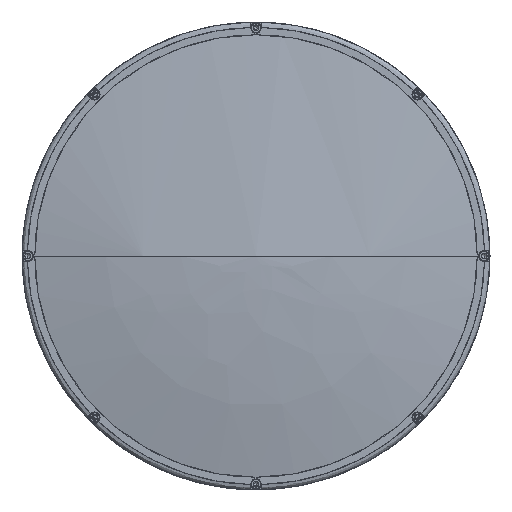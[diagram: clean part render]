
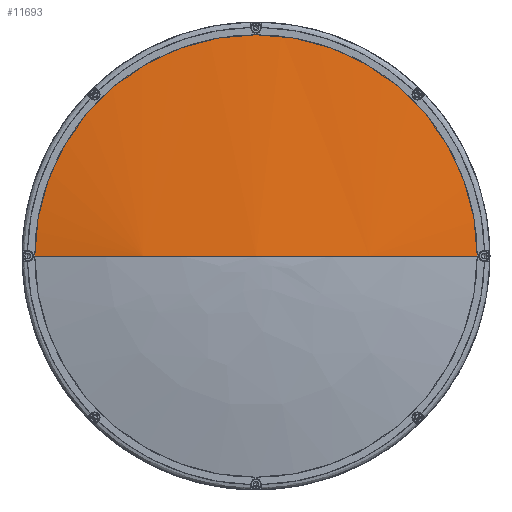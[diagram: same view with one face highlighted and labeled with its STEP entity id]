
A CAD part, left-side view. The second image highlights one B-rep face of the part: STEP entity #11693.
In plain terms, the highlighted face is a revolution surface.
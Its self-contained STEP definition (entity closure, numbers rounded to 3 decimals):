
#11693 = ADVANCED_FACE('',(#11694),#11712,.T.);
#11694 = FACE_BOUND('',#11695,.T.);
#11695 = EDGE_LOOP('',(#11696,#11726,#11745,#11764));
#11696 = ORIENTED_EDGE('',*,*,#11697,.F.);
#11697 = EDGE_CURVE('',#11698,#11700,#11702,.T.);
#11698 = VERTEX_POINT('',#11699);
#11699 = CARTESIAN_POINT('',(-560.373,0.,
    0.));
#11700 = VERTEX_POINT('',#11701);
#11701 = CARTESIAN_POINT('',(-547.362,-124.9,
    0.));
#11702 = SURFACE_CURVE('',#11703,(#11711),.PCURVE_S1.);
#11703 = ( BOUNDED_CURVE() B_SPLINE_CURVE(6,(#11704,#11705,#11706,#11707
    ,#11708,#11709,#11710),.UNSPECIFIED.,.F.,.F.) 
B_SPLINE_CURVE_WITH_KNOTS((7,7),(0.,1.),.PIECEWISE_BEZIER_KNOTS.) CURVE(
) GEOMETRIC_REPRESENTATION_ITEM() RATIONAL_B_SPLINE_CURVE((
    1.001,1.,1.,1.,
1.,1.,1.001)) REPRESENTATION_ITEM('') 
  );
#11704 = CARTESIAN_POINT('',(-560.373,0.,
    0.));
#11705 = CARTESIAN_POINT('',(-560.373,-20.974,
    0.));
#11706 = CARTESIAN_POINT('',(-559.502,-41.94,
    0.));
#11707 = CARTESIAN_POINT('',(-557.761,-62.856,
    0.));
#11708 = CARTESIAN_POINT('',(-555.154,-83.681,
    0.));
#11709 = CARTESIAN_POINT('',(-551.685,-104.376,
    0.));
#11710 = CARTESIAN_POINT('',(-547.362,-124.9,
    0.));
#11711 = PCURVE('',#11712,#11721);
#11712 = SURFACE_OF_REVOLUTION('',#11713,#11718);
#11713 = CIRCLE('',#11714,606.);
#11714 = AXIS2_PLACEMENT_3D('',#11715,#11716,#11717);
#11715 = CARTESIAN_POINT('',(45.627,0.,
    0.));
#11716 = DIRECTION('',(0.,0.,-1.));
#11717 = DIRECTION('',(1.,0.,0.));
#11718 = AXIS1_PLACEMENT('',#11719,#11720);
#11719 = CARTESIAN_POINT('',(45.627,0.,0.));
#11720 = DIRECTION('',(1.,0.,0.));
#11721 = DEFINITIONAL_REPRESENTATION('',(#11722),#11725);
#11722 = B_SPLINE_CURVE_WITH_KNOTS('',1,(#11723,#11724),.UNSPECIFIED.,
  .F.,.F.,(2,2),(0.,1.),.PIECEWISE_BEZIER_KNOTS.);
#11723 = CARTESIAN_POINT('',(6.283,3.142));
#11724 = CARTESIAN_POINT('',(6.283,2.934));
#11725 = ( GEOMETRIC_REPRESENTATION_CONTEXT(2) 
PARAMETRIC_REPRESENTATION_CONTEXT() REPRESENTATION_CONTEXT('',''
  ) );
#11726 = ORIENTED_EDGE('',*,*,#11727,.F.);
#11727 = EDGE_CURVE('',#11728,#11698,#11730,.T.);
#11728 = VERTEX_POINT('',#11729);
#11729 = CARTESIAN_POINT('',(-560.373,0.,
    0.));
#11730 = SURFACE_CURVE('',#11731,(#11739),.PCURVE_S1.);
#11731 = ( BOUNDED_CURVE() B_SPLINE_CURVE(6,(#11732,#11733,#11734,#11735
    ,#11736,#11737,#11738),.UNSPECIFIED.,.F.,.F.) 
B_SPLINE_CURVE_WITH_KNOTS((7,7),(0.,1.),.PIECEWISE_BEZIER_KNOTS.) CURVE(
) GEOMETRIC_REPRESENTATION_ITEM() RATIONAL_B_SPLINE_CURVE((
    1.133,1.036,0.992,0.976,
0.992,1.036,1.133)) REPRESENTATION_ITEM('') 
  );
#11732 = CARTESIAN_POINT('',(-560.373,0.,
    0.));
#11733 = CARTESIAN_POINT('',(-560.373,0.,
    0.));
#11734 = CARTESIAN_POINT('',(-560.373,0.,
    0.));
#11735 = CARTESIAN_POINT('',(-560.373,0.,
    0.));
#11736 = CARTESIAN_POINT('',(-560.373,0.,
    0.));
#11737 = CARTESIAN_POINT('',(-560.373,0.,
    0.));
#11738 = CARTESIAN_POINT('',(-560.373,0.,
    0.));
#11739 = PCURVE('',#11712,#11740);
#11740 = DEFINITIONAL_REPRESENTATION('',(#11741),#11744);
#11741 = B_SPLINE_CURVE_WITH_KNOTS('',1,(#11742,#11743),.UNSPECIFIED.,
  .F.,.F.,(2,2),(0.,1.),.PIECEWISE_BEZIER_KNOTS.);
#11742 = CARTESIAN_POINT('',(3.142,3.142));
#11743 = CARTESIAN_POINT('',(6.283,3.142));
#11744 = ( GEOMETRIC_REPRESENTATION_CONTEXT(2) 
PARAMETRIC_REPRESENTATION_CONTEXT() REPRESENTATION_CONTEXT('',''
  ) );
#11745 = ORIENTED_EDGE('',*,*,#11746,.F.);
#11746 = EDGE_CURVE('',#11747,#11728,#11749,.T.);
#11747 = VERTEX_POINT('',#11748);
#11748 = CARTESIAN_POINT('',(-547.362,124.9,
    0.));
#11749 = SURFACE_CURVE('',#11750,(#11758),.PCURVE_S1.);
#11750 = ( BOUNDED_CURVE() B_SPLINE_CURVE(6,(#11751,#11752,#11753,#11754
    ,#11755,#11756,#11757),.UNSPECIFIED.,.F.,.F.) 
B_SPLINE_CURVE_WITH_KNOTS((7,7),(0.,1.),.PIECEWISE_BEZIER_KNOTS.) CURVE(
) GEOMETRIC_REPRESENTATION_ITEM() RATIONAL_B_SPLINE_CURVE((
    1.001,1.,1.,1.,
1.,1.,1.001)) REPRESENTATION_ITEM('') 
  );
#11751 = CARTESIAN_POINT('',(-547.362,124.9,
    0.));
#11752 = CARTESIAN_POINT('',(-551.685,104.376,
    0.));
#11753 = CARTESIAN_POINT('',(-555.154,83.681,
    0.));
#11754 = CARTESIAN_POINT('',(-557.761,62.856,
    0.));
#11755 = CARTESIAN_POINT('',(-559.502,41.94,
    0.));
#11756 = CARTESIAN_POINT('',(-560.373,20.974,
    0.));
#11757 = CARTESIAN_POINT('',(-560.373,0.,
    0.));
#11758 = PCURVE('',#11712,#11759);
#11759 = DEFINITIONAL_REPRESENTATION('',(#11760),#11763);
#11760 = B_SPLINE_CURVE_WITH_KNOTS('',1,(#11761,#11762),.UNSPECIFIED.,
  .F.,.F.,(2,2),(0.,1.),.PIECEWISE_BEZIER_KNOTS.);
#11761 = CARTESIAN_POINT('',(3.142,2.934));
#11762 = CARTESIAN_POINT('',(3.142,3.142));
#11763 = ( GEOMETRIC_REPRESENTATION_CONTEXT(2) 
PARAMETRIC_REPRESENTATION_CONTEXT() REPRESENTATION_CONTEXT('',''
  ) );
#11764 = ORIENTED_EDGE('',*,*,#11765,.F.);
#11765 = EDGE_CURVE('',#11700,#11747,#11766,.T.);
#11766 = SURFACE_CURVE('',#11767,(#11779),.PCURVE_S1.);
#11767 = B_SPLINE_CURVE_WITH_KNOTS('',10,(#11768,#11769,#11770,#11771,
    #11772,#11773,#11774,#11775,#11776,#11777,#11778),.UNSPECIFIED.,.F.,
  .F.,(11,11),(0.,1.),.PIECEWISE_BEZIER_KNOTS.);
#11768 = CARTESIAN_POINT('',(-547.362,-124.9,
    0.));
#11769 = CARTESIAN_POINT('',(-547.362,-124.9,
    39.238));
#11770 = CARTESIAN_POINT('',(-547.362,-111.203,
    78.477));
#11771 = CARTESIAN_POINT('',(-547.362,-83.809,
    112.337));
#11772 = CARTESIAN_POINT('',(-547.362,-45.134,
    135.439));
#11773 = CARTESIAN_POINT('',(-547.362,0.,
    143.67));
#11774 = CARTESIAN_POINT('',(-547.362,45.134,
    135.439));
#11775 = CARTESIAN_POINT('',(-547.362,83.809,
    112.337));
#11776 = CARTESIAN_POINT('',(-547.362,111.203,
    78.477));
#11777 = CARTESIAN_POINT('',(-547.362,124.9,
    39.238));
#11778 = CARTESIAN_POINT('',(-547.362,124.9,
    0.));
#11779 = PCURVE('',#11712,#11780);
#11780 = DEFINITIONAL_REPRESENTATION('',(#11781),#11784);
#11781 = B_SPLINE_CURVE_WITH_KNOTS('',1,(#11782,#11783),.UNSPECIFIED.,
  .F.,.F.,(2,2),(0.,1.),.PIECEWISE_BEZIER_KNOTS.);
#11782 = CARTESIAN_POINT('',(6.283,2.934));
#11783 = CARTESIAN_POINT('',(3.142,2.934));
#11784 = ( GEOMETRIC_REPRESENTATION_CONTEXT(2) 
PARAMETRIC_REPRESENTATION_CONTEXT() REPRESENTATION_CONTEXT('',''
  ) );
